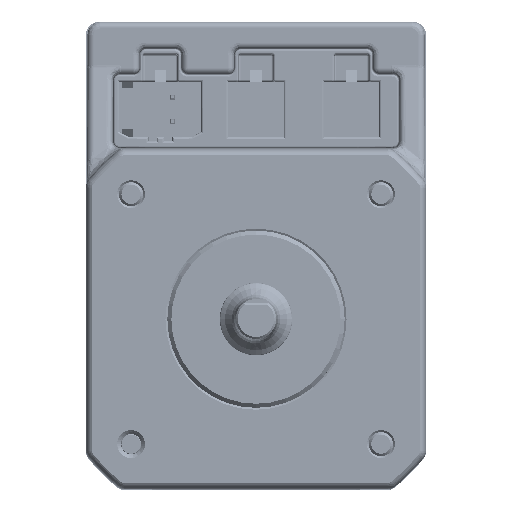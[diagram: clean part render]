
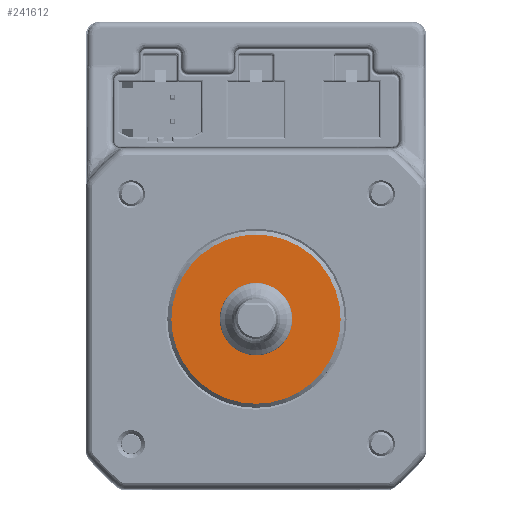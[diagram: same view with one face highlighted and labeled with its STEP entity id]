
A CAD part, top view. The second image highlights one B-rep face of the part: STEP entity #241612.
In plain terms, the highlighted planar face has unit normal (0, 0, 1).
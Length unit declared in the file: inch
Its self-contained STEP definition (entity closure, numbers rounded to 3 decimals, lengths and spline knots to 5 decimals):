
#5435 = DIRECTION ( 'NONE',  ( 1., 0., 0. ) ) ;
#5667 = CARTESIAN_POINT ( 'NONE',  ( 0., 0., 0.07874 ) ) ;
#28027 = ORIENTED_EDGE ( 'NONE', *, *, #175407, .T. ) ;
#29830 = DIRECTION ( 'NONE',  ( 1., 0., 0. ) ) ;
#32365 = ORIENTED_EDGE ( 'NONE', *, *, #38505, .T. ) ;
#38505 = EDGE_CURVE ( 'NONE', #64719, #211653, #159543, .T. ) ;
#48615 = DIRECTION ( 'NONE',  ( 0., 0., 1. ) ) ;
#49225 = VERTEX_POINT ( 'NONE', #85787 ) ;
#51201 = VERTEX_POINT ( 'NONE', #213475 ) ;
#61634 = ORIENTED_EDGE ( 'NONE', *, *, #199776, .F. ) ;
#62292 = AXIS2_PLACEMENT_3D ( 'NONE', #134303, #199420, #220178 ) ;
#64719 = VERTEX_POINT ( 'NONE', #134552 ) ;
#85787 = CARTESIAN_POINT ( 'NONE',  ( 0.17717, 0., 0.07874 ) ) ;
#87463 = EDGE_LOOP ( 'NONE', ( #28027, #32365 ) ) ;
#90059 = CARTESIAN_POINT ( 'NONE',  ( -0.41339, 0., 0.07874 ) ) ;
#91393 = DIRECTION ( 'NONE',  ( 0., 0., 1. ) ) ;
#94952 = FACE_OUTER_BOUND ( 'NONE', #87463, .T. ) ;
#97492 = AXIS2_PLACEMENT_3D ( 'NONE', #175403, #258676, #29830 ) ;
#115773 = PLANE ( 'NONE',  #148722 ) ;
#116738 = EDGE_CURVE ( 'NONE', #51201, #49225, #137840, .T. ) ;
#133115 = DIRECTION ( 'NONE',  ( 1., 0., 0. ) ) ;
#134234 = CARTESIAN_POINT ( 'NONE',  ( 0., 0., 0.07874 ) ) ;
#134303 = CARTESIAN_POINT ( 'NONE',  ( 0., 0., 0.07874 ) ) ;
#134552 = CARTESIAN_POINT ( 'NONE',  ( 0.41339, 0., 0.07874 ) ) ;
#137840 = CIRCLE ( 'NONE', #199934, 0.17717 ) ;
#148722 = AXIS2_PLACEMENT_3D ( 'NONE', #158653, #223696, #243209 ) ;
#158653 = CARTESIAN_POINT ( 'NONE',  ( 0., 0., 0.07874 ) ) ;
#159543 = CIRCLE ( 'NONE', #62292, 0.41339 ) ;
#174980 = ORIENTED_EDGE ( 'NONE', *, *, #116738, .F. ) ;
#175403 = CARTESIAN_POINT ( 'NONE',  ( 0., 0., 0.07874 ) ) ;
#175407 = EDGE_CURVE ( 'NONE', #211653, #64719, #267324, .T. ) ;
#199420 = DIRECTION ( 'NONE',  ( 0., 0., 1. ) ) ;
#199776 = EDGE_CURVE ( 'NONE', #49225, #51201, #230351, .T. ) ;
#199934 = AXIS2_PLACEMENT_3D ( 'NONE', #134234, #91393, #5435 ) ;
#209484 = EDGE_LOOP ( 'NONE', ( #174980, #61634 ) ) ;
#211653 = VERTEX_POINT ( 'NONE', #90059 ) ;
#213475 = CARTESIAN_POINT ( 'NONE',  ( -0.17717, 0., 0.07874 ) ) ;
#220178 = DIRECTION ( 'NONE',  ( 1., 0., 0. ) ) ;
#223696 = DIRECTION ( 'NONE',  ( 0., 0., 1. ) ) ;
#227425 = AXIS2_PLACEMENT_3D ( 'NONE', #5667, #48615, #133115 ) ;
#230351 = CIRCLE ( 'NONE', #97492, 0.17717 ) ;
#241612 = ADVANCED_FACE ( 'NONE', ( #244590, #94952 ), #115773, .T. ) ;
#243209 = DIRECTION ( 'NONE',  ( 1., 0., 0. ) ) ;
#244590 = FACE_BOUND ( 'NONE', #209484, .T. ) ;
#258676 = DIRECTION ( 'NONE',  ( 0., 0., 1. ) ) ;
#267324 = CIRCLE ( 'NONE', #227425, 0.41339 ) ;
